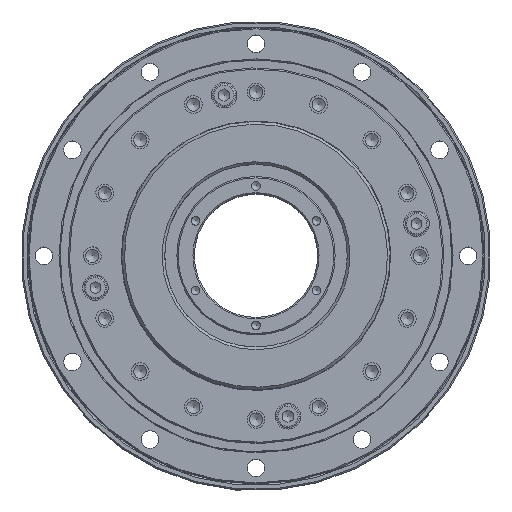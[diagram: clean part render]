
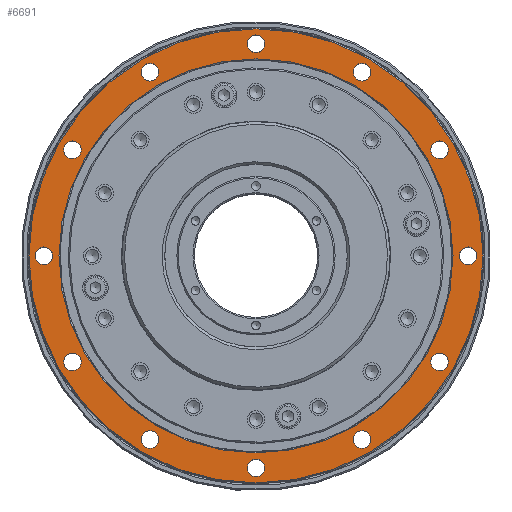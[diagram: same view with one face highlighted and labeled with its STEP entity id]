
A CAD part, top view. The second image highlights one B-rep face of the part: STEP entity #6691.
In plain terms, the highlighted planar face has unit normal (0, 0, 1).
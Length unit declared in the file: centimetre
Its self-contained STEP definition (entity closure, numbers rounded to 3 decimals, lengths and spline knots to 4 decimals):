
#1195=FACE_BOUND('',#2490,.T.);
#1196=FACE_BOUND('',#2491,.T.);
#1197=FACE_BOUND('',#2492,.T.);
#1198=FACE_BOUND('',#2493,.T.);
#1199=FACE_BOUND('',#2494,.T.);
#1200=FACE_BOUND('',#2495,.T.);
#1201=FACE_BOUND('',#2496,.T.);
#1202=FACE_BOUND('',#2497,.T.);
#1203=FACE_BOUND('',#2498,.T.);
#1204=FACE_BOUND('',#2499,.T.);
#1205=FACE_BOUND('',#2500,.T.);
#1206=FACE_BOUND('',#2501,.T.);
#1207=FACE_BOUND('',#2502,.T.);
#1208=FACE_BOUND('',#2503,.T.);
#2490=EDGE_LOOP('',(#5485));
#2491=EDGE_LOOP('',(#5486));
#2492=EDGE_LOOP('',(#5487));
#2493=EDGE_LOOP('',(#5488));
#2494=EDGE_LOOP('',(#5489));
#2495=EDGE_LOOP('',(#5490));
#2496=EDGE_LOOP('',(#5491));
#2497=EDGE_LOOP('',(#5492));
#2498=EDGE_LOOP('',(#5493));
#2499=EDGE_LOOP('',(#5494));
#2500=EDGE_LOOP('',(#5495));
#2501=EDGE_LOOP('',(#5496));
#2502=EDGE_LOOP('',(#5497));
#2503=EDGE_LOOP('',(#5498));
#3283=CIRCLE('',#7517,0.33);
#3285=CIRCLE('',#7520,0.33);
#3286=CIRCLE('',#7522,0.33);
#3287=CIRCLE('',#7524,0.33);
#3288=CIRCLE('',#7526,0.33);
#3289=CIRCLE('',#7528,0.33);
#3290=CIRCLE('',#7530,0.33);
#3291=CIRCLE('',#7532,0.33);
#3292=CIRCLE('',#7534,0.33);
#3293=CIRCLE('',#7536,0.33);
#3294=CIRCLE('',#7538,0.33);
#3295=CIRCLE('',#7540,0.33);
#3297=CIRCLE('',#7544,7.34);
#3298=CIRCLE('',#7546,8.46);
#3838=VERTEX_POINT('',#11274);
#3840=VERTEX_POINT('',#11279);
#3841=VERTEX_POINT('',#11282);
#3842=VERTEX_POINT('',#11285);
#3843=VERTEX_POINT('',#11288);
#3844=VERTEX_POINT('',#11291);
#3845=VERTEX_POINT('',#11294);
#3846=VERTEX_POINT('',#11297);
#3847=VERTEX_POINT('',#11300);
#3848=VERTEX_POINT('',#11303);
#3849=VERTEX_POINT('',#11306);
#3850=VERTEX_POINT('',#11309);
#3852=VERTEX_POINT('',#11315);
#3853=VERTEX_POINT('',#11318);
#4487=EDGE_CURVE('',#3838,#3838,#3283,.T.);
#4489=EDGE_CURVE('',#3840,#3840,#3285,.T.);
#4490=EDGE_CURVE('',#3841,#3841,#3286,.T.);
#4491=EDGE_CURVE('',#3842,#3842,#3287,.T.);
#4492=EDGE_CURVE('',#3843,#3843,#3288,.T.);
#4493=EDGE_CURVE('',#3844,#3844,#3289,.T.);
#4494=EDGE_CURVE('',#3845,#3845,#3290,.T.);
#4495=EDGE_CURVE('',#3846,#3846,#3291,.T.);
#4496=EDGE_CURVE('',#3847,#3847,#3292,.T.);
#4497=EDGE_CURVE('',#3848,#3848,#3293,.T.);
#4498=EDGE_CURVE('',#3849,#3849,#3294,.T.);
#4499=EDGE_CURVE('',#3850,#3850,#3295,.T.);
#4501=EDGE_CURVE('',#3852,#3852,#3297,.T.);
#4502=EDGE_CURVE('',#3853,#3853,#3298,.T.);
#5485=ORIENTED_EDGE('',*,*,#4487,.T.);
#5486=ORIENTED_EDGE('',*,*,#4489,.T.);
#5487=ORIENTED_EDGE('',*,*,#4490,.T.);
#5488=ORIENTED_EDGE('',*,*,#4491,.T.);
#5489=ORIENTED_EDGE('',*,*,#4492,.T.);
#5490=ORIENTED_EDGE('',*,*,#4493,.T.);
#5491=ORIENTED_EDGE('',*,*,#4494,.T.);
#5492=ORIENTED_EDGE('',*,*,#4495,.T.);
#5493=ORIENTED_EDGE('',*,*,#4496,.T.);
#5494=ORIENTED_EDGE('',*,*,#4497,.T.);
#5495=ORIENTED_EDGE('',*,*,#4498,.T.);
#5496=ORIENTED_EDGE('',*,*,#4499,.T.);
#5497=ORIENTED_EDGE('',*,*,#4502,.F.);
#5498=ORIENTED_EDGE('',*,*,#4501,.F.);
#6302=PLANE('',#7545);
#6691=ADVANCED_FACE('',(#1195,#1196,#1197,#1198,#1199,#1200,#1201,#1202,
#1203,#1204,#1205,#1206,#1207,#1208),#6302,.T.);
#7517=AXIS2_PLACEMENT_3D('',#11275,#9152,#9153);
#7520=AXIS2_PLACEMENT_3D('',#11280,#9158,#9159);
#7522=AXIS2_PLACEMENT_3D('',#11283,#9162,#9163);
#7524=AXIS2_PLACEMENT_3D('',#11286,#9166,#9167);
#7526=AXIS2_PLACEMENT_3D('',#11289,#9170,#9171);
#7528=AXIS2_PLACEMENT_3D('',#11292,#9174,#9175);
#7530=AXIS2_PLACEMENT_3D('',#11295,#9178,#9179);
#7532=AXIS2_PLACEMENT_3D('',#11298,#9182,#9183);
#7534=AXIS2_PLACEMENT_3D('',#11301,#9186,#9187);
#7536=AXIS2_PLACEMENT_3D('',#11304,#9190,#9191);
#7538=AXIS2_PLACEMENT_3D('',#11307,#9194,#9195);
#7540=AXIS2_PLACEMENT_3D('',#11310,#9198,#9199);
#7544=AXIS2_PLACEMENT_3D('',#11316,#9206,#9207);
#7545=AXIS2_PLACEMENT_3D('',#11317,#9208,#9209);
#7546=AXIS2_PLACEMENT_3D('',#11319,#9210,#9211);
#9152=DIRECTION('center_axis',(0.,0.,-1.));
#9153=DIRECTION('ref_axis',(1.,0.,0.));
#9158=DIRECTION('center_axis',(0.,0.,-1.));
#9159=DIRECTION('ref_axis',(1.,0.,0.));
#9162=DIRECTION('center_axis',(0.,0.,-1.));
#9163=DIRECTION('ref_axis',(1.,0.,0.));
#9166=DIRECTION('center_axis',(0.,0.,-1.));
#9167=DIRECTION('ref_axis',(1.,0.,0.));
#9170=DIRECTION('center_axis',(0.,0.,-1.));
#9171=DIRECTION('ref_axis',(1.,0.,0.));
#9174=DIRECTION('center_axis',(0.,0.,-1.));
#9175=DIRECTION('ref_axis',(1.,0.,0.));
#9178=DIRECTION('center_axis',(0.,0.,-1.));
#9179=DIRECTION('ref_axis',(1.,0.,0.));
#9182=DIRECTION('center_axis',(0.,0.,-1.));
#9183=DIRECTION('ref_axis',(1.,0.,0.));
#9186=DIRECTION('center_axis',(0.,0.,-1.));
#9187=DIRECTION('ref_axis',(1.,0.,0.));
#9190=DIRECTION('center_axis',(0.,0.,-1.));
#9191=DIRECTION('ref_axis',(1.,0.,0.));
#9194=DIRECTION('center_axis',(0.,0.,-1.));
#9195=DIRECTION('ref_axis',(1.,0.,0.));
#9198=DIRECTION('center_axis',(0.,0.,-1.));
#9199=DIRECTION('ref_axis',(1.,0.,0.));
#9206=DIRECTION('center_axis',(0.,0.,1.));
#9207=DIRECTION('ref_axis',(0.,1.,0.));
#9208=DIRECTION('center_axis',(0.,0.,1.));
#9209=DIRECTION('ref_axis',(-1.,0.,0.));
#9210=DIRECTION('center_axis',(0.,0.,-1.));
#9211=DIRECTION('ref_axis',(0.,1.,0.));
#11274=CARTESIAN_POINT('',(3.62,-6.8416,2.75));
#11275=CARTESIAN_POINT('Origin',(3.95,-6.8416,2.75));
#11279=CARTESIAN_POINT('',(-4.28,-6.8416,2.75));
#11280=CARTESIAN_POINT('Origin',(-3.95,-6.8416,2.75));
#11282=CARTESIAN_POINT('',(-8.23,0.,2.75));
#11283=CARTESIAN_POINT('Origin',(-7.9,0.,2.75));
#11285=CARTESIAN_POINT('',(-4.28,6.8416,2.75));
#11286=CARTESIAN_POINT('Origin',(-3.95,6.8416,2.75));
#11288=CARTESIAN_POINT('',(3.62,6.8416,2.75));
#11289=CARTESIAN_POINT('Origin',(3.95,6.8416,2.75));
#11291=CARTESIAN_POINT('',(7.57,0.,2.75));
#11292=CARTESIAN_POINT('Origin',(7.9,0.,2.75));
#11294=CARTESIAN_POINT('',(6.5116,3.95,2.75));
#11295=CARTESIAN_POINT('Origin',(6.8416,3.95,2.75));
#11297=CARTESIAN_POINT('',(-0.33,7.9,2.75));
#11298=CARTESIAN_POINT('Origin',(0.,7.9,2.75));
#11300=CARTESIAN_POINT('',(-7.1716,3.95,2.75));
#11301=CARTESIAN_POINT('Origin',(-6.8416,3.95,2.75));
#11303=CARTESIAN_POINT('',(-7.1716,-3.95,2.75));
#11304=CARTESIAN_POINT('Origin',(-6.8416,-3.95,2.75));
#11306=CARTESIAN_POINT('',(-0.33,-7.9,2.75));
#11307=CARTESIAN_POINT('Origin',(0.,-7.9,2.75));
#11309=CARTESIAN_POINT('',(6.5116,-3.95,2.75));
#11310=CARTESIAN_POINT('Origin',(6.8416,-3.95,2.75));
#11315=CARTESIAN_POINT('',(0.,-7.34,2.75));
#11316=CARTESIAN_POINT('Origin',(0.,0.,2.75));
#11317=CARTESIAN_POINT('Origin',(0.,-8.5,2.75));
#11318=CARTESIAN_POINT('',(0.,-8.46,2.75));
#11319=CARTESIAN_POINT('Origin',(0.,0.,2.75));
